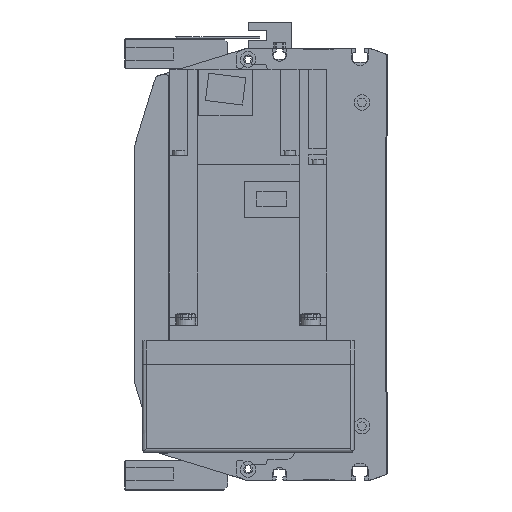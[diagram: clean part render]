
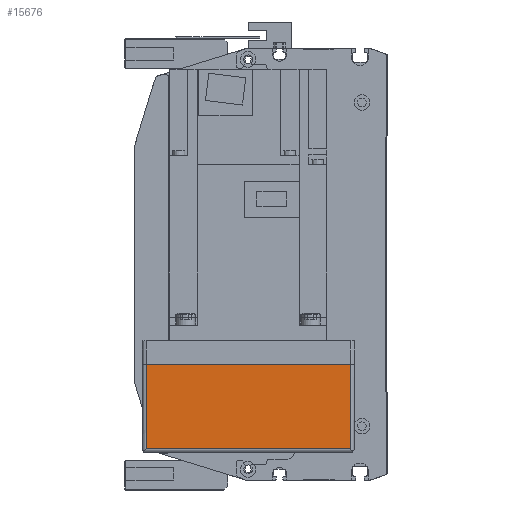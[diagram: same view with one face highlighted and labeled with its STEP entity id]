
A CAD part, left-side view. The second image highlights one B-rep face of the part: STEP entity #15676.
In plain terms, the highlighted planar face has unit normal (-1, 0, 0).
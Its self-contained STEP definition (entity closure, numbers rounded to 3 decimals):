
#2648=ORIENTED_EDGE('',*,*,#6368,.T.);
#2649=ORIENTED_EDGE('',*,*,#6296,.T.);
#2650=ORIENTED_EDGE('',*,*,#6369,.F.);
#2651=ORIENTED_EDGE('',*,*,#6308,.F.);
#6296=EDGE_CURVE('',#8302,#8305,#9928,.T.);
#6308=EDGE_CURVE('',#8312,#8314,#9933,.T.);
#6368=EDGE_CURVE('',#8312,#8302,#9975,.T.);
#6369=EDGE_CURVE('',#8314,#8305,#9976,.T.);
#8302=VERTEX_POINT('',#24415);
#8305=VERTEX_POINT('',#24421);
#8312=VERTEX_POINT('',#24444);
#8314=VERTEX_POINT('',#24447);
#9928=LINE('',#24422,#11289);
#9933=LINE('',#24446,#11294);
#9975=LINE('',#24570,#11336);
#9976=LINE('',#24571,#11337);
#11289=VECTOR('',#19471,1000.);
#11294=VECTOR('',#19498,1000.);
#11336=VECTOR('',#19618,1000.);
#11337=VECTOR('',#19619,1000.);
#12507=EDGE_LOOP('',(#2648,#2649,#2650,#2651));
#13844=FACE_BOUND('',#12507,.T.);
#15019=PLANE('',#16837);
#15676=ADVANCED_FACE('',(#13844),#15019,.T.);
#16837=AXIS2_PLACEMENT_3D('',#24569,#19616,#19617);
#19471=DIRECTION('',(0.,0.,1.));
#19498=DIRECTION('',(0.,0.,1.));
#19616=DIRECTION('',(-1.,0.,0.));
#19617=DIRECTION('',(0.,0.,1.));
#19618=DIRECTION('',(0.,-1.,0.));
#19619=DIRECTION('',(0.,-1.,0.));
#24415=CARTESIAN_POINT('',(-230.,-52.,-55.));
#24421=CARTESIAN_POINT('',(-230.,-52.,-12.));
#24422=CARTESIAN_POINT('',(-230.,-52.,-57.));
#24444=CARTESIAN_POINT('',(-230.,52.,-55.));
#24446=CARTESIAN_POINT('',(-230.,52.,-57.));
#24447=CARTESIAN_POINT('',(-230.,52.,-12.));
#24569=CARTESIAN_POINT('',(-230.,52.,-57.));
#24570=CARTESIAN_POINT('',(-230.,54.,-55.));
#24571=CARTESIAN_POINT('',(-230.,52.,-12.));
